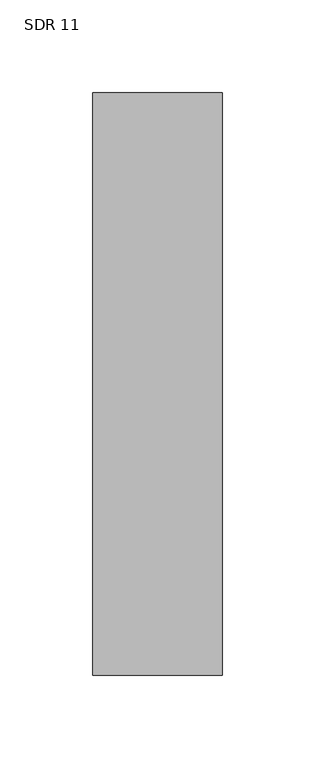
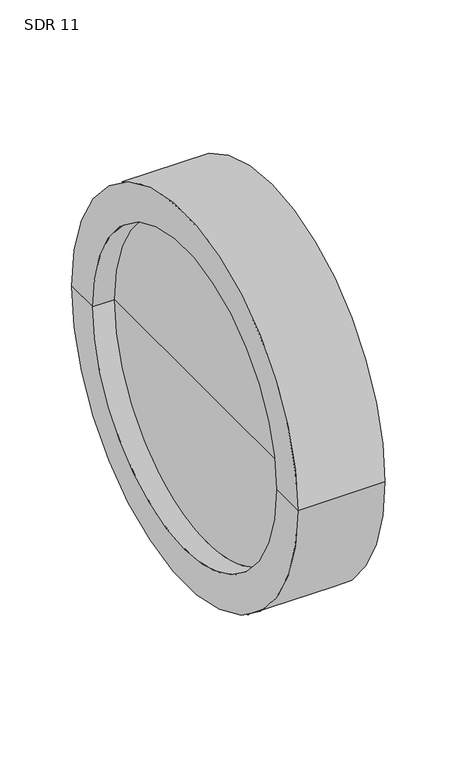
"""IFC4 building model written with IfcOpenShell, lengths in millimetres: pipe fitting geometry, Aquatherm - End Cap Butt-Weld : SDR 11."""

from ifc_helpers import new_model, si_unit, frame, origin, place, context, project, spatial, polyline, circle_curve, source, transform, mapped, element, save
from ifc_brep_helpers import plane_surface, cylinder_surface, revolved_surface, advanced_brep


def sdr_11_f3065be0(model_context):
    return source(origin(), model_context, "Body", "AdvancedBrep", [
        advanced_brep(
        [(70.104, -157.48, 0.0), (70.104, 157.48, 0.0), (70.104, 0.0, 0.0), (17.526, 0.0, 0.0), (17.526, 128.27, 0.0), (17.526, -128.27, 0.0), (0.0, 128.27, 0.0), (0.0, -128.27, 0.0), (0.0, 157.48, 0.0), (0.0, -157.48, 0.0)],
        [
            (0, 1, circle_curve(frame((70.104, 0.0, 0.0), z_axis=(1.0, 0.0, 0.0), x_axis=(0.0, 1.0, 0.0)), 157.48)),
            (1, 2),
            (2, 0),
            (1, 0, circle_curve(frame((70.104, 0.0, 0.0), z_axis=(1.0, 0.0, 0.0), x_axis=(0.0, 1.0, 0.0)), 157.48)),
            (3, 4),
            (4, 5, circle_curve(frame((17.526, 0.0, 0.0), z_axis=(-1.0, 0.0, 0.0), x_axis=(0.0, 1.0, 0.0)), 128.27)),
            (5, 3),
            (5, 4, circle_curve(frame((17.526, 0.0, 0.0), z_axis=(-1.0, 0.0, 0.0), x_axis=(0.0, 1.0, 0.0)), 128.27)),
            (4, 6),
            (6, 7, circle_curve(frame((0.0, 0.0, 0.0), z_axis=(-1.0, 0.0, 0.0), x_axis=(0.0, 1.0, 0.0)), 128.27)),
            (7, 5),
            (7, 6, circle_curve(frame((0.0, 0.0, 0.0), z_axis=(-1.0, 0.0, 0.0), x_axis=(0.0, 1.0, 0.0)), 128.27)),
            (6, 8),
            (8, 9, circle_curve(frame((0.0, 0.0, 0.0), z_axis=(-1.0, 0.0, 0.0), x_axis=(0.0, 1.0, 0.0)), 157.48)),
            (9, 7),
            (9, 8, circle_curve(frame((0.0, 0.0, 0.0), z_axis=(-1.0, 0.0, 0.0), x_axis=(0.0, 1.0, 0.0)), 157.48)),
            (8, 1),
            (0, 9),
        ],
        [
            plane_surface(frame((70.104, 0.0, 0.0), z_axis=(1.0, 0.0, 0.0), x_axis=(0.0, 1.0, 0.0))),
            plane_surface(frame((17.526, 0.0, 0.0), z_axis=(-1.0, 0.0, 0.0), x_axis=(0.0, 1.0, 0.0))),
            revolved_surface(polyline([(0.0, 128.27, 0.0), (17.526000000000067, 128.27, 0.0)]), (-1373.886, 0.0, 0.0), (-1.0, 0.0, 0.0)),
            plane_surface(frame((0.0, 0.0, 0.0), z_axis=(-1.0, 0.0, 0.0), x_axis=(0.0, 1.0, 0.0))),
            cylinder_surface(frame((-1373.886, 0.0, 0.0), z_axis=(-1.0, 0.0, 0.0), x_axis=(0.0, 1.0, 0.0)), 157.48),
        ],
        [
            (0, [[1, 2, 3]]),
            (0, [[4, -3, -2]]),
            (1, [[5, 6, 7]]),
            (1, [[-7, 8, -5]]),
            (2, [[-6, 9, 10, 11]]),
            (2, [[-8, -11, 12, -9]]),
            (3, [[-10, 13, 14, 15]]),
            (3, [[-12, -15, 16, -13]]),
            (4, [[-14, 17, -1, 18]]),
            (4, [[-16, -18, -4, -17]]),
        ],
    ),
    ])


if __name__ == "__main__":
    model = new_model("IFC4")
    model_context = context("Model", 3, world=origin())
    ifc_project = project(units=[si_unit("LENGTHUNIT", "METRE", prefix="MILLI")], contexts=[model_context])
    site = spatial("IfcSite", under=ifc_project)
    building = spatial("IfcBuilding", under=site)
    placement = place(None, origin())
    sdr_11_shape = sdr_11_f3065be0(model_context)
    element("IfcPipeFitting", 1, ObjectType="Aquatherm - End Cap Butt-Weld : SDR 11", at=placement, inside=building, context=model_context, shape_type="MappedRepresentation", body=[
        mapped(sdr_11_shape, transform((0.0, 0.0, 0.0), x_axis=(1.0, 0.0, 0.0), y_axis=(0.0, 1.0, 0.0), z_axis=(0.0, 0.0, 1.0))),
    ])
    save(model, "model.ifc")
